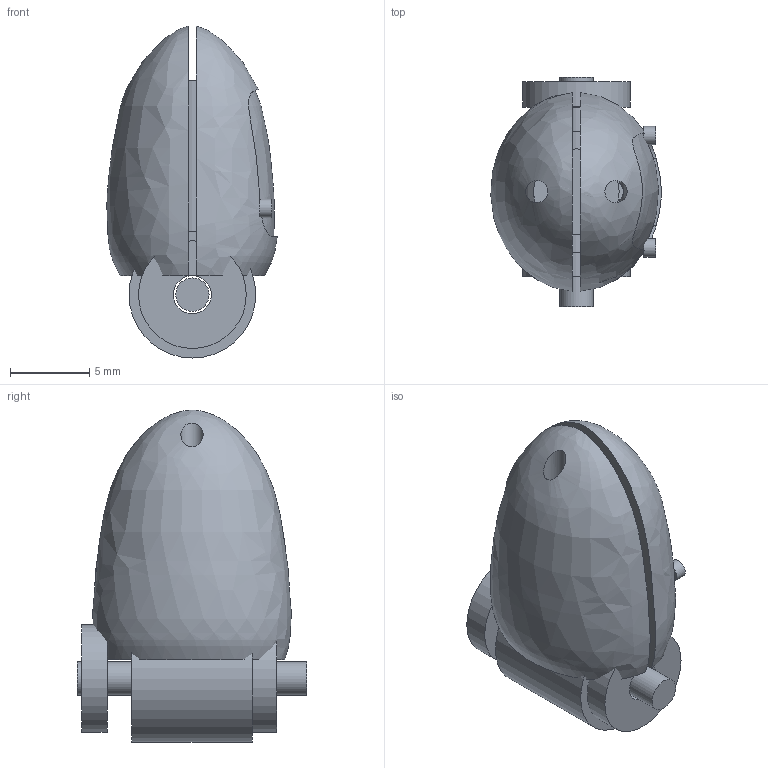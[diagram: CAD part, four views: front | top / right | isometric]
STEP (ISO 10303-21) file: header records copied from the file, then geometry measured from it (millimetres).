
FILE_DESCRIPTION(('FreeCAD Model'),'2;1');
FILE_NAME('Open CASCADE Shape Model','2026-10-05T09:22:59',('Author'),( ''),'Open CASCADE STEP processor 7.8','FreeCAD','Unknown');
FILE_SCHEMA(('AUTOMOTIVE_DESIGN { 1 0 10303 214 1 1 1 1 }'));
Length unit declared in the file: millimetre
Products named in the file (11): Export_pinky_distal; pinky_distalDorsalShell; pinky_distalFlexorShell; pinky_distalInsetPad; pinky_distalCore; pinky_distalHingeBarrel; pinky_distalCheek-1; pinky_distalCheek1; pinky_distalPin; pinky_distalScrew_-1_0.32; pinky_distalScrew_1_0.32
Assembly tree (10 placements, depth 2):
  Export_pinky_distal
    pinky_distalDorsalShell
    pinky_distalFlexorShell
    pinky_distalInsetPad
    pinky_distalCore
    pinky_distalHingeBarrel
    pinky_distalCheek-1
    pinky_distalCheek1
    pinky_distalPin
    pinky_distalScrew_-1_0.32
    pinky_distalScrew_1_0.32
Bounding box: 10.75 x 14.46 x 20.95 mm (x, y, z)
Volume: 1836.4 mm3; surface area: 2058 mm2
Topology: 10 solids, 10 shells, 65 faces, 130 edges, 82 vertices
Faces by surface type: cylinder 28, plane 26, sphere 8, bspline 3
Full cylindrical faces by diameter (mm): 0.464 x2, 1.16 x2, 1.4 x2, 2.1 x1, 2.4 x3, 5.4 x1, 6.8 x2, 8 x1
Entity records: 3148 total; most frequent: CARTESIAN_POINT 1670, DIRECTION 278, ORIENTED_EDGE 252, EDGE_CURVE 126, AXIS2_PLACEMENT_3D 119, VERTEX_POINT 82, FACE_BOUND 78, EDGE_LOOP 78
